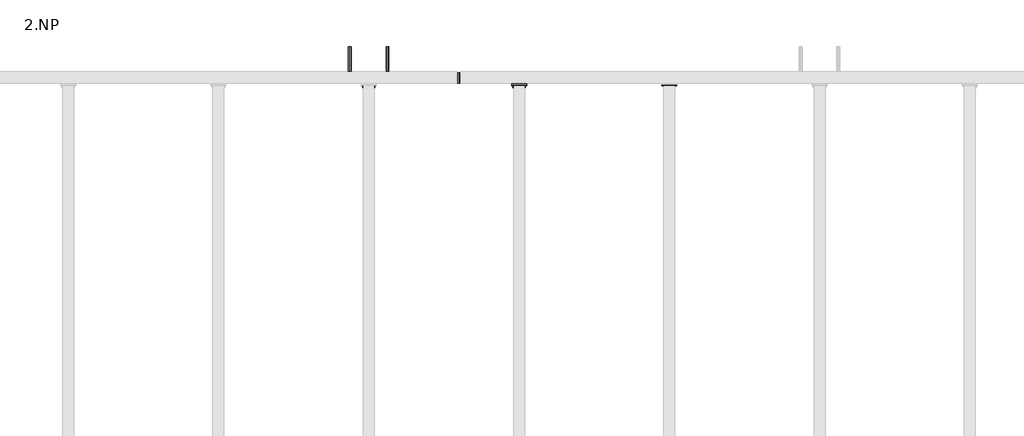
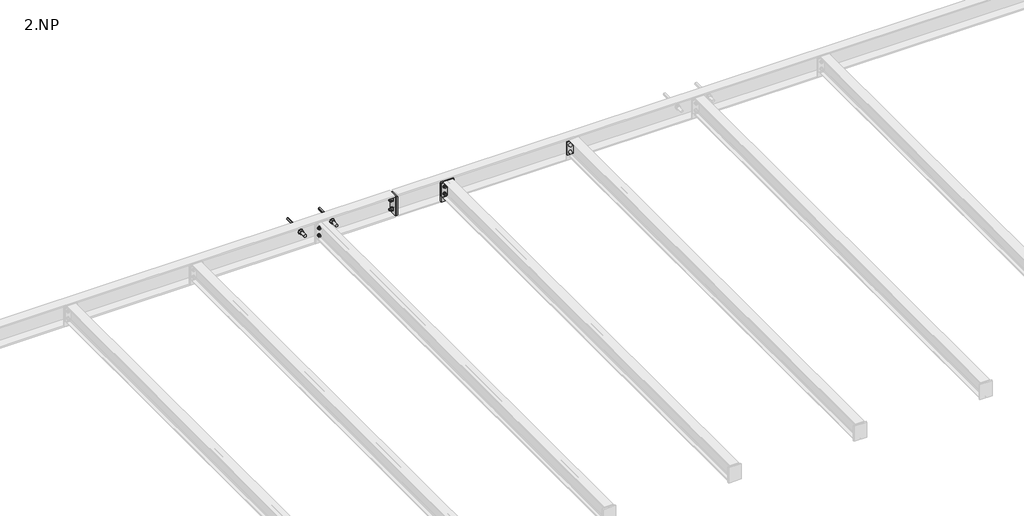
# One storey, part 11 of 18: 10 proxies.
"""IFC4 building model written with IfcOpenShell, lengths in millimetres."""

from ifc_helpers import new_model, si_unit, point, frame, frame_2d, origin, place, context, project, spatial, polyline, circle_curve, trimmed, segment, composite_curve, outline, extrude, element, save

model = new_model("IFC4")

# Units and contexts
model_context = context("Model", 3, world=origin())
ifc_project = project(units=[si_unit("LENGTHUNIT", "METRE", prefix="MILLI")], contexts=[model_context])

# Site, building, storey
site = spatial("IfcSite", under=ifc_project)
building = spatial("IfcBuilding", under=site)
storey = spatial("IfcBuildingStorey", under=building, Name="2.NP", Elevation=3000.0)

# Proxies
placement = place(None, origin())
element("IfcBuildingElementProxy", 1, Name="PLECH", ObjectType="PLECH", at=placement, inside=storey, context=model_context, shape_type="SweptSolid", body=[
    extrude(outline(polyline([(7000.0, 3775.0), (7100.0, 3775.0), (7100.0, 3767.0), (7000.0, 3767.0), (7000.0, 3775.0)])), frame((0.0, 0.0, 3175.0), z_axis=(0.0, 0.0, 1.0), x_axis=(1.0, 0.0, 0.0)), (0.0, 0.0, 1.0), 110.0),
])
element("IfcBuildingElementProxy", 2, Name="PLECH", ObjectType="PLECH", at=placement, inside=storey, context=model_context, shape_type="SweptSolid", body=[
    extrude(outline(polyline([(8000.0, 3775.0), (8100.0, 3775.0), (8100.0, 3767.0), (8000.0, 3767.0), (8000.0, 3775.0)])), frame((0.0, 0.0, 3175.0), z_axis=(0.0, 0.0, 1.0), x_axis=(1.0, 0.0, 0.0)), (0.0, 0.0, 1.0), 110.0),
])
element("IfcBuildingElementProxy", 3, Name="PLECH", ObjectType="PLECH", at=placement, inside=storey, context=model_context, shape_type="SweptSolid", body=[
    extrude(outline(polyline([(6650.0, 3855.0), (6650.0, 3785.0), (6640.0, 3785.0), (6640.0, 3855.0), (6650.0, 3855.0)])), frame((0.0, 0.0, 3130.5), z_axis=(0.0, 0.0, 1.0), x_axis=(1.0, 0.0, 0.0)), (0.0, 0.0, 1.0), 159.0),
])
element("IfcBuildingElementProxy", 4, Name="PLECH", ObjectType="PLECH", at=placement, inside=storey, context=model_context, shape_type="SweptSolid", body=[
    extrude(outline(polyline([(7000.0, 3785.0), (7100.0, 3785.0), (7100.0, 3775.0), (7000.0, 3775.0), (7000.0, 3785.0)])), frame((0.0, 0.0, 3128.0), z_axis=(0.0, 0.0, 1.0), x_axis=(1.0, 0.0, 0.0)), (0.0, 0.0, 1.0), 164.0),
])
element("IfcBuildingElementProxy", 5, Name="PLECH", ObjectType="PLECH", at=placement, inside=storey, context=model_context, shape_type="SweptSolid", body=[
    extrude(outline(composite_curve([segment(polyline([(3785.0, 3289.5), (3834.5, 3289.5)]), True, "CONTINUOUS"), segment(trimmed(circle_curve(frame_2d((3854.5, 3289.5)), 20.0), [point((3834.5, 3289.5))], [point((3854.5, 3269.5))], True, "CARTESIAN"), True, "CONTINUOUS"), segment(polyline([(3854.5, 3269.5), (3854.5, 3150.5)]), True, "CONTINUOUS"), segment(trimmed(circle_curve(frame_2d((3854.5, 3130.5)), 20.0), [point((3854.5, 3150.5))], [point((3834.5, 3130.5))], True, "CARTESIAN"), True, "CONTINUOUS"), segment(polyline([(3834.5, 3130.5), (3785.0, 3130.5), (3785.0, 3289.5)]), True, "CONTINUOUS")], self_intersect=False)), frame((7047.0, 0.0, 0.0), z_axis=(1.0, 0.0, 0.0), x_axis=(0.0, 1.0, 0.0)), (0.0, 0.0, 1.0), 6.0),
])
element("IfcBuildingElementProxy", 6, Name="PLECH", ObjectType="PLECH", at=placement, inside=storey, context=model_context, shape_type="SweptSolid", body=[
    extrude(outline(polyline([(6660.0, 3855.0), (6660.0, 3785.0), (6650.0, 3785.0), (6650.0, 3855.0), (6660.0, 3855.0)])), frame((0.0, 0.0, 3130.5), z_axis=(0.0, 0.0, 1.0), x_axis=(1.0, 0.0, 0.0)), (0.0, 0.0, 1.0), 159.0),
])
element("IfcBuildingElementProxy", 7, Name="Bolt assembly", ObjectType="Bolt assembly", at=placement, inside=storey, context=model_context, shape_type="SweptSolid", body=[
    extrude(outline(composite_curve([segment(trimmed(circle_curve(frame_2d((3260.0, 6020.0)), 6.5), [point((3260.0, 6026.5))], [point((3260.0, 6013.5))], False, "CARTESIAN"), True, "CONTINUOUS"), segment(trimmed(circle_curve(frame_2d((3260.0, 6020.0)), 6.5), [point((3260.0, 6013.5))], [point((3260.0, 6026.5))], False, "CARTESIAN"), True, "CONTINUOUS")], self_intersect=False)), frame((0.0, 3774.9, 0.0), z_axis=(0.0, 1.0, 0.0), x_axis=(0.0, 0.0, 1.0)), (0.0, 0.0, 1.0), 10.0),
    extrude(outline(polyline([(3260.0, 6030.9696551), (3269.5, 6025.4848276), (3269.5, 6014.5151724), (3260.0, 6009.0303449), (3250.5, 6014.5151724), (3250.5, 6025.4848276), (3260.0, 6030.9696551)])), frame((0.0, 3787.5, 0.0), z_axis=(0.0, 1.0, 0.0), x_axis=(0.0, 0.0, 1.0)), (0.0, 0.0, 1.0), 7.5),
    extrude(outline(composite_curve([segment(trimmed(circle_curve(frame_2d((3260.0, 6020.0)), 6.0), [point((3260.0, 6026.0))], [point((3260.0, 6014.0))], False, "CARTESIAN"), True, "CONTINUOUS"), segment(trimmed(circle_curve(frame_2d((3260.0, 6020.0)), 6.0), [point((3260.0, 6014.0))], [point((3260.0, 6026.0))], False, "CARTESIAN"), True, "CONTINUOUS")], self_intersect=False)), frame((0.0, 3747.5, 0.0), z_axis=(0.0, 1.0, 0.0), x_axis=(0.0, 0.0, 1.0)), (0.0, 0.0, 1.0), 40.0),
    extrude(outline(composite_curve([segment(trimmed(circle_curve(frame_2d((3260.0, 6020.0)), 12.0), [point((3260.0, 6032.0))], [point((3260.0, 6008.0))], False, "CARTESIAN"), True, "CONTINUOUS"), segment(trimmed(circle_curve(frame_2d((3260.0, 6020.0)), 12.0), [point((3260.0, 6008.0))], [point((3260.0, 6032.0))], False, "CARTESIAN"), True, "CONTINUOUS")], self_intersect=False)), frame((0.0, 3785.0, 0.0), z_axis=(0.0, 1.0, 0.0), x_axis=(0.0, 0.0, 1.0)), (0.0, 0.0, 1.0), 2.5),
    extrude(outline(composite_curve([segment(trimmed(circle_curve(frame_2d((3260.0, 6020.0)), 12.0), [point((3260.0, 6032.0))], [point((3260.0, 6008.0))], False, "CARTESIAN"), True, "CONTINUOUS"), segment(trimmed(circle_curve(frame_2d((3260.0, 6020.0)), 12.0), [point((3260.0, 6008.0))], [point((3260.0, 6032.0))], False, "CARTESIAN"), True, "CONTINUOUS")], self_intersect=False)), frame((0.0, 3764.5, 0.0), z_axis=(0.0, 1.0, 0.0), x_axis=(0.0, 0.0, 1.0)), (0.0, 0.0, 1.0), 2.5),
    extrude(outline(polyline([(3260.0, 6030.9696551), (3269.5, 6025.4848276), (3269.5, 6014.5151724), (3260.0, 6009.0303449), (3250.5, 6014.5151724), (3250.5, 6025.4848276), (3260.0, 6030.9696551)])), frame((0.0, 3754.5, 0.0), z_axis=(0.0, 1.0, 0.0), x_axis=(0.0, 0.0, 1.0)), (0.0, 0.0, 1.0), 10.0),
    extrude(outline(composite_curve([segment(trimmed(circle_curve(frame_2d((3260.0, 6020.0)), 6.5), [point((3260.0, 6026.5))], [point((3260.0, 6013.5))], False, "CARTESIAN"), True, "CONTINUOUS"), segment(trimmed(circle_curve(frame_2d((3260.0, 6020.0)), 6.5), [point((3260.0, 6013.5))], [point((3260.0, 6026.5))], False, "CARTESIAN"), True, "CONTINUOUS")], self_intersect=False)), frame((0.0, 3767.0, 0.0), z_axis=(0.0, 1.0, 0.0), x_axis=(0.0, 0.0, 1.0)), (0.0, 0.0, 1.0), 8.1),
    extrude(outline(composite_curve([segment(trimmed(circle_curve(frame_2d((3260.0, 6080.0)), 6.5), [point((3260.0, 6086.5))], [point((3260.0, 6073.5))], False, "CARTESIAN"), True, "CONTINUOUS"), segment(trimmed(circle_curve(frame_2d((3260.0, 6080.0)), 6.5), [point((3260.0, 6073.5))], [point((3260.0, 6086.5))], False, "CARTESIAN"), True, "CONTINUOUS")], self_intersect=False)), frame((0.0, 3774.9, 0.0), z_axis=(0.0, 1.0, 0.0), x_axis=(0.0, 0.0, 1.0)), (0.0, 0.0, 1.0), 10.0),
    extrude(outline(polyline([(3260.0, 6090.9696551), (3269.5, 6085.4848276), (3269.5, 6074.5151724), (3260.0, 6069.0303449), (3250.5, 6074.5151724), (3250.5, 6085.4848276), (3260.0, 6090.9696551)])), frame((0.0, 3787.5, 0.0), z_axis=(0.0, 1.0, 0.0), x_axis=(0.0, 0.0, 1.0)), (0.0, 0.0, 1.0), 7.5),
    extrude(outline(composite_curve([segment(trimmed(circle_curve(frame_2d((3260.0, 6080.0)), 6.0), [point((3260.0, 6086.0))], [point((3260.0, 6074.0))], False, "CARTESIAN"), True, "CONTINUOUS"), segment(trimmed(circle_curve(frame_2d((3260.0, 6080.0)), 6.0), [point((3260.0, 6074.0))], [point((3260.0, 6086.0))], False, "CARTESIAN"), True, "CONTINUOUS")], self_intersect=False)), frame((0.0, 3747.5, 0.0), z_axis=(0.0, 1.0, 0.0), x_axis=(0.0, 0.0, 1.0)), (0.0, 0.0, 1.0), 40.0),
    extrude(outline(composite_curve([segment(trimmed(circle_curve(frame_2d((3260.0, 6080.0)), 12.0), [point((3260.0, 6092.0))], [point((3260.0, 6068.0))], False, "CARTESIAN"), True, "CONTINUOUS"), segment(trimmed(circle_curve(frame_2d((3260.0, 6080.0)), 12.0), [point((3260.0, 6068.0))], [point((3260.0, 6092.0))], False, "CARTESIAN"), True, "CONTINUOUS")], self_intersect=False)), frame((0.0, 3785.0, 0.0), z_axis=(0.0, 1.0, 0.0), x_axis=(0.0, 0.0, 1.0)), (0.0, 0.0, 1.0), 2.5),
    extrude(outline(composite_curve([segment(trimmed(circle_curve(frame_2d((3260.0, 6080.0)), 12.0), [point((3260.0, 6092.0))], [point((3260.0, 6068.0))], False, "CARTESIAN"), True, "CONTINUOUS"), segment(trimmed(circle_curve(frame_2d((3260.0, 6080.0)), 12.0), [point((3260.0, 6068.0))], [point((3260.0, 6092.0))], False, "CARTESIAN"), True, "CONTINUOUS")], self_intersect=False)), frame((0.0, 3764.5, 0.0), z_axis=(0.0, 1.0, 0.0), x_axis=(0.0, 0.0, 1.0)), (0.0, 0.0, 1.0), 2.5),
    extrude(outline(polyline([(3260.0, 6090.9696551), (3269.5, 6085.4848276), (3269.5, 6074.5151724), (3260.0, 6069.0303449), (3250.5, 6074.5151724), (3250.5, 6085.4848276), (3260.0, 6090.9696551)])), frame((0.0, 3754.5, 0.0), z_axis=(0.0, 1.0, 0.0), x_axis=(0.0, 0.0, 1.0)), (0.0, 0.0, 1.0), 10.0),
    extrude(outline(composite_curve([segment(trimmed(circle_curve(frame_2d((3260.0, 6080.0)), 6.5), [point((3260.0, 6086.5))], [point((3260.0, 6073.5))], False, "CARTESIAN"), True, "CONTINUOUS"), segment(trimmed(circle_curve(frame_2d((3260.0, 6080.0)), 6.5), [point((3260.0, 6073.5))], [point((3260.0, 6086.5))], False, "CARTESIAN"), True, "CONTINUOUS")], self_intersect=False)), frame((0.0, 3767.0, 0.0), z_axis=(0.0, 1.0, 0.0), x_axis=(0.0, 0.0, 1.0)), (0.0, 0.0, 1.0), 8.1),
    extrude(outline(composite_curve([segment(trimmed(circle_curve(frame_2d((3200.0, 6020.0)), 6.5), [point((3200.0, 6026.5))], [point((3200.0, 6013.5))], False, "CARTESIAN"), True, "CONTINUOUS"), segment(trimmed(circle_curve(frame_2d((3200.0, 6020.0)), 6.5), [point((3200.0, 6013.5))], [point((3200.0, 6026.5))], False, "CARTESIAN"), True, "CONTINUOUS")], self_intersect=False)), frame((0.0, 3774.9, 0.0), z_axis=(0.0, 1.0, 0.0), x_axis=(0.0, 0.0, 1.0)), (0.0, 0.0, 1.0), 10.0),
    extrude(outline(polyline([(3200.0, 6030.9696551), (3209.5, 6025.4848276), (3209.5, 6014.5151724), (3200.0, 6009.0303449), (3190.5, 6014.5151724), (3190.5, 6025.4848276), (3200.0, 6030.9696551)])), frame((0.0, 3787.5, 0.0), z_axis=(0.0, 1.0, 0.0), x_axis=(0.0, 0.0, 1.0)), (0.0, 0.0, 1.0), 7.5),
    extrude(outline(composite_curve([segment(trimmed(circle_curve(frame_2d((3200.0, 6020.0)), 6.0), [point((3200.0, 6026.0))], [point((3200.0, 6014.0))], False, "CARTESIAN"), True, "CONTINUOUS"), segment(trimmed(circle_curve(frame_2d((3200.0, 6020.0)), 6.0), [point((3200.0, 6014.0))], [point((3200.0, 6026.0))], False, "CARTESIAN"), True, "CONTINUOUS")], self_intersect=False)), frame((0.0, 3747.5, 0.0), z_axis=(0.0, 1.0, 0.0), x_axis=(0.0, 0.0, 1.0)), (0.0, 0.0, 1.0), 40.0),
    extrude(outline(composite_curve([segment(trimmed(circle_curve(frame_2d((3200.0, 6020.0)), 12.0), [point((3200.0, 6032.0))], [point((3200.0, 6008.0))], False, "CARTESIAN"), True, "CONTINUOUS"), segment(trimmed(circle_curve(frame_2d((3200.0, 6020.0)), 12.0), [point((3200.0, 6008.0))], [point((3200.0, 6032.0))], False, "CARTESIAN"), True, "CONTINUOUS")], self_intersect=False)), frame((0.0, 3785.0, 0.0), z_axis=(0.0, 1.0, 0.0), x_axis=(0.0, 0.0, 1.0)), (0.0, 0.0, 1.0), 2.5),
    extrude(outline(composite_curve([segment(trimmed(circle_curve(frame_2d((3200.0, 6020.0)), 12.0), [point((3200.0, 6032.0))], [point((3200.0, 6008.0))], False, "CARTESIAN"), True, "CONTINUOUS"), segment(trimmed(circle_curve(frame_2d((3200.0, 6020.0)), 12.0), [point((3200.0, 6008.0))], [point((3200.0, 6032.0))], False, "CARTESIAN"), True, "CONTINUOUS")], self_intersect=False)), frame((0.0, 3764.5, 0.0), z_axis=(0.0, 1.0, 0.0), x_axis=(0.0, 0.0, 1.0)), (0.0, 0.0, 1.0), 2.5),
    extrude(outline(polyline([(3200.0, 6030.9696551), (3209.5, 6025.4848276), (3209.5, 6014.5151724), (3200.0, 6009.0303449), (3190.5, 6014.5151724), (3190.5, 6025.4848276), (3200.0, 6030.9696551)])), frame((0.0, 3754.5, 0.0), z_axis=(0.0, 1.0, 0.0), x_axis=(0.0, 0.0, 1.0)), (0.0, 0.0, 1.0), 10.0),
    extrude(outline(composite_curve([segment(trimmed(circle_curve(frame_2d((3200.0, 6020.0)), 6.5), [point((3200.0, 6026.5))], [point((3200.0, 6013.5))], False, "CARTESIAN"), True, "CONTINUOUS"), segment(trimmed(circle_curve(frame_2d((3200.0, 6020.0)), 6.5), [point((3200.0, 6013.5))], [point((3200.0, 6026.5))], False, "CARTESIAN"), True, "CONTINUOUS")], self_intersect=False)), frame((0.0, 3767.0, 0.0), z_axis=(0.0, 1.0, 0.0), x_axis=(0.0, 0.0, 1.0)), (0.0, 0.0, 1.0), 8.1),
    extrude(outline(composite_curve([segment(trimmed(circle_curve(frame_2d((3200.0, 6080.0)), 6.5), [point((3200.0, 6086.5))], [point((3200.0, 6073.5))], False, "CARTESIAN"), True, "CONTINUOUS"), segment(trimmed(circle_curve(frame_2d((3200.0, 6080.0)), 6.5), [point((3200.0, 6073.5))], [point((3200.0, 6086.5))], False, "CARTESIAN"), True, "CONTINUOUS")], self_intersect=False)), frame((0.0, 3774.9, 0.0), z_axis=(0.0, 1.0, 0.0), x_axis=(0.0, 0.0, 1.0)), (0.0, 0.0, 1.0), 10.0),
    extrude(outline(polyline([(3200.0, 6090.9696551), (3209.5, 6085.4848276), (3209.5, 6074.5151724), (3200.0, 6069.0303449), (3190.5, 6074.5151724), (3190.5, 6085.4848276), (3200.0, 6090.9696551)])), frame((0.0, 3787.5, 0.0), z_axis=(0.0, 1.0, 0.0), x_axis=(0.0, 0.0, 1.0)), (0.0, 0.0, 1.0), 7.5),
    extrude(outline(composite_curve([segment(trimmed(circle_curve(frame_2d((3200.0, 6080.0)), 6.0), [point((3200.0, 6086.0))], [point((3200.0, 6074.0))], False, "CARTESIAN"), True, "CONTINUOUS"), segment(trimmed(circle_curve(frame_2d((3200.0, 6080.0)), 6.0), [point((3200.0, 6074.0))], [point((3200.0, 6086.0))], False, "CARTESIAN"), True, "CONTINUOUS")], self_intersect=False)), frame((0.0, 3747.5, 0.0), z_axis=(0.0, 1.0, 0.0), x_axis=(0.0, 0.0, 1.0)), (0.0, 0.0, 1.0), 40.0),
    extrude(outline(composite_curve([segment(trimmed(circle_curve(frame_2d((3200.0, 6080.0)), 12.0), [point((3200.0, 6092.0))], [point((3200.0, 6068.0))], False, "CARTESIAN"), True, "CONTINUOUS"), segment(trimmed(circle_curve(frame_2d((3200.0, 6080.0)), 12.0), [point((3200.0, 6068.0))], [point((3200.0, 6092.0))], False, "CARTESIAN"), True, "CONTINUOUS")], self_intersect=False)), frame((0.0, 3785.0, 0.0), z_axis=(0.0, 1.0, 0.0), x_axis=(0.0, 0.0, 1.0)), (0.0, 0.0, 1.0), 2.5),
    extrude(outline(composite_curve([segment(trimmed(circle_curve(frame_2d((3200.0, 6080.0)), 12.0), [point((3200.0, 6092.0))], [point((3200.0, 6068.0))], False, "CARTESIAN"), True, "CONTINUOUS"), segment(trimmed(circle_curve(frame_2d((3200.0, 6080.0)), 12.0), [point((3200.0, 6068.0))], [point((3200.0, 6092.0))], False, "CARTESIAN"), True, "CONTINUOUS")], self_intersect=False)), frame((0.0, 3764.5, 0.0), z_axis=(0.0, 1.0, 0.0), x_axis=(0.0, 0.0, 1.0)), (0.0, 0.0, 1.0), 2.5),
    extrude(outline(polyline([(3200.0, 6090.9696551), (3209.5, 6085.4848276), (3209.5, 6074.5151724), (3200.0, 6069.0303449), (3190.5, 6074.5151724), (3190.5, 6085.4848276), (3200.0, 6090.9696551)])), frame((0.0, 3754.5, 0.0), z_axis=(0.0, 1.0, 0.0), x_axis=(0.0, 0.0, 1.0)), (0.0, 0.0, 1.0), 10.0),
    extrude(outline(composite_curve([segment(trimmed(circle_curve(frame_2d((3200.0, 6080.0)), 6.5), [point((3200.0, 6086.5))], [point((3200.0, 6073.5))], False, "CARTESIAN"), True, "CONTINUOUS"), segment(trimmed(circle_curve(frame_2d((3200.0, 6080.0)), 6.5), [point((3200.0, 6073.5))], [point((3200.0, 6086.5))], False, "CARTESIAN"), True, "CONTINUOUS")], self_intersect=False)), frame((0.0, 3767.0, 0.0), z_axis=(0.0, 1.0, 0.0), x_axis=(0.0, 0.0, 1.0)), (0.0, 0.0, 1.0), 8.1),
])
element("IfcBuildingElementProxy", 8, Name="Bolt assembly", ObjectType="Bolt assembly", at=placement, inside=storey, context=model_context, shape_type="SweptSolid", body=[
    extrude(outline(polyline([(3210.0, 5934.8149546), (3218.5, 5929.9074773), (3218.5, 5920.0925227), (3210.0, 5915.1850454), (3201.5, 5920.0925227), (3201.5, 5929.9074773), (3210.0, 5934.8149546)])), frame((0.0, 3860.0, 0.0), z_axis=(0.0, 1.0, 0.0), x_axis=(0.0, 0.0, 1.0)), (0.0, 0.0, 1.0), 168.0),
    extrude(outline(composite_curve([segment(trimmed(circle_curve(frame_2d((3210.0, 5925.0)), 10.0), [point((3210.0, 5935.0))], [point((3210.0, 5915.0))], False, "CARTESIAN"), True, "CONTINUOUS"), segment(trimmed(circle_curve(frame_2d((3210.0, 5925.0)), 10.0), [point((3210.0, 5915.0))], [point((3210.0, 5935.0))], False, "CARTESIAN"), True, "CONTINUOUS")], self_intersect=False)), frame((0.0, 3788.0, 0.0), z_axis=(0.0, 1.0, 0.0), x_axis=(0.0, 0.0, 1.0)), (0.0, 0.0, 1.0), 72.0),
    extrude(outline(composite_curve([segment(trimmed(circle_curve(frame_2d((3210.0, 5925.0)), 18.5), [point((3210.0, 5943.5))], [point((3210.0, 5906.5))], False, "CARTESIAN"), True, "CONTINUOUS"), segment(trimmed(circle_curve(frame_2d((3210.0, 5925.0)), 18.5), [point((3210.0, 5906.5))], [point((3210.0, 5943.5))], False, "CARTESIAN"), True, "CONTINUOUS")], self_intersect=False)), frame((0.0, 3851.5, 0.0), z_axis=(0.0, 1.0, 0.0), x_axis=(0.0, 0.0, 1.0)), (0.0, 0.0, 1.0), 3.0),
    extrude(outline(polyline([(3210.0, 5942.3205081), (3225.0, 5933.660254), (3225.0, 5916.339746), (3210.0, 5907.6794919), (3195.0, 5916.339746), (3195.0, 5933.660254), (3210.0, 5942.3205081)])), frame((0.0, 3835.5, 0.0), z_axis=(0.0, 1.0, 0.0), x_axis=(0.0, 0.0, 1.0)), (0.0, 0.0, 1.0), 16.0),
    extrude(outline(composite_curve([segment(trimmed(circle_curve(frame_2d((3210.0, 5925.0)), 11.0), [point((3210.0, 5936.0))], [point((3210.0, 5914.0))], False, "CARTESIAN"), True, "CONTINUOUS"), segment(trimmed(circle_curve(frame_2d((3210.0, 5925.0)), 11.0), [point((3210.0, 5914.0))], [point((3210.0, 5936.0))], False, "CARTESIAN"), True, "CONTINUOUS")], self_intersect=False)), frame((0.0, 3854.4, 0.0), z_axis=(0.0, 1.0, 0.0), x_axis=(0.0, 0.0, 1.0)), (0.0, 0.0, 1.0), 5.6),
    extrude(outline(polyline([(3210.0, 6184.8149546), (3218.5, 6179.9074773), (3218.5, 6170.0925227), (3210.0, 6165.1850454), (3201.5, 6170.0925227), (3201.5, 6179.9074773), (3210.0, 6184.8149546)])), frame((0.0, 3860.0, 0.0), z_axis=(0.0, 1.0, 0.0), x_axis=(0.0, 0.0, 1.0)), (0.0, 0.0, 1.0), 168.0),
    extrude(outline(composite_curve([segment(trimmed(circle_curve(frame_2d((3210.0, 6175.0)), 10.0), [point((3210.0, 6185.0))], [point((3210.0, 6165.0))], False, "CARTESIAN"), True, "CONTINUOUS"), segment(trimmed(circle_curve(frame_2d((3210.0, 6175.0)), 10.0), [point((3210.0, 6165.0))], [point((3210.0, 6185.0))], False, "CARTESIAN"), True, "CONTINUOUS")], self_intersect=False)), frame((0.0, 3788.0, 0.0), z_axis=(0.0, 1.0, 0.0), x_axis=(0.0, 0.0, 1.0)), (0.0, 0.0, 1.0), 72.0),
    extrude(outline(composite_curve([segment(trimmed(circle_curve(frame_2d((3210.0, 6175.0)), 18.5), [point((3210.0, 6193.5))], [point((3210.0, 6156.5))], False, "CARTESIAN"), True, "CONTINUOUS"), segment(trimmed(circle_curve(frame_2d((3210.0, 6175.0)), 18.5), [point((3210.0, 6156.5))], [point((3210.0, 6193.5))], False, "CARTESIAN"), True, "CONTINUOUS")], self_intersect=False)), frame((0.0, 3851.5, 0.0), z_axis=(0.0, 1.0, 0.0), x_axis=(0.0, 0.0, 1.0)), (0.0, 0.0, 1.0), 3.0),
    extrude(outline(polyline([(3210.0, 6192.3205081), (3225.0, 6183.660254), (3225.0, 6166.339746), (3210.0, 6157.6794919), (3195.0, 6166.339746), (3195.0, 6183.660254), (3210.0, 6192.3205081)])), frame((0.0, 3835.5, 0.0), z_axis=(0.0, 1.0, 0.0), x_axis=(0.0, 0.0, 1.0)), (0.0, 0.0, 1.0), 16.0),
    extrude(outline(composite_curve([segment(trimmed(circle_curve(frame_2d((3210.0, 6175.0)), 11.0), [point((3210.0, 6186.0))], [point((3210.0, 6164.0))], False, "CARTESIAN"), True, "CONTINUOUS"), segment(trimmed(circle_curve(frame_2d((3210.0, 6175.0)), 11.0), [point((3210.0, 6164.0))], [point((3210.0, 6186.0))], False, "CARTESIAN"), True, "CONTINUOUS")], self_intersect=False)), frame((0.0, 3854.4, 0.0), z_axis=(0.0, 1.0, 0.0), x_axis=(0.0, 0.0, 1.0)), (0.0, 0.0, 1.0), 5.6),
])
element("IfcBuildingElementProxy", 9, Name="Bolt assembly", ObjectType="Bolt assembly", at=placement, inside=storey, context=model_context, shape_type="SweptSolid", body=[
    extrude(outline(composite_curve([segment(trimmed(circle_curve(frame_2d((3260.0, 7020.0)), 6.5), [point((3260.0, 7026.5))], [point((3260.0, 7013.5))], False, "CARTESIAN"), True, "CONTINUOUS"), segment(trimmed(circle_curve(frame_2d((3260.0, 7020.0)), 6.5), [point((3260.0, 7013.5))], [point((3260.0, 7026.5))], False, "CARTESIAN"), True, "CONTINUOUS")], self_intersect=False)), frame((0.0, 3774.9, 0.0), z_axis=(0.0, 1.0, 0.0), x_axis=(0.0, 0.0, 1.0)), (0.0, 0.0, 1.0), 10.0),
    extrude(outline(polyline([(3260.0, 7030.9696551), (3269.5, 7025.4848276), (3269.5, 7014.5151724), (3260.0, 7009.0303449), (3250.5, 7014.5151724), (3250.5, 7025.4848276), (3260.0, 7030.9696551)])), frame((0.0, 3787.5, 0.0), z_axis=(0.0, 1.0, 0.0), x_axis=(0.0, 0.0, 1.0)), (0.0, 0.0, 1.0), 7.5),
    extrude(outline(composite_curve([segment(trimmed(circle_curve(frame_2d((3260.0, 7020.0)), 6.0), [point((3260.0, 7026.0))], [point((3260.0, 7014.0))], False, "CARTESIAN"), True, "CONTINUOUS"), segment(trimmed(circle_curve(frame_2d((3260.0, 7020.0)), 6.0), [point((3260.0, 7014.0))], [point((3260.0, 7026.0))], False, "CARTESIAN"), True, "CONTINUOUS")], self_intersect=False)), frame((0.0, 3747.5, 0.0), z_axis=(0.0, 1.0, 0.0), x_axis=(0.0, 0.0, 1.0)), (0.0, 0.0, 1.0), 40.0),
    extrude(outline(composite_curve([segment(trimmed(circle_curve(frame_2d((3260.0, 7020.0)), 12.0), [point((3260.0, 7032.0))], [point((3260.0, 7008.0))], False, "CARTESIAN"), True, "CONTINUOUS"), segment(trimmed(circle_curve(frame_2d((3260.0, 7020.0)), 12.0), [point((3260.0, 7008.0))], [point((3260.0, 7032.0))], False, "CARTESIAN"), True, "CONTINUOUS")], self_intersect=False)), frame((0.0, 3785.0, 0.0), z_axis=(0.0, 1.0, 0.0), x_axis=(0.0, 0.0, 1.0)), (0.0, 0.0, 1.0), 2.5),
    extrude(outline(composite_curve([segment(trimmed(circle_curve(frame_2d((3260.0, 7020.0)), 12.0), [point((3260.0, 7032.0))], [point((3260.0, 7008.0))], False, "CARTESIAN"), True, "CONTINUOUS"), segment(trimmed(circle_curve(frame_2d((3260.0, 7020.0)), 12.0), [point((3260.0, 7008.0))], [point((3260.0, 7032.0))], False, "CARTESIAN"), True, "CONTINUOUS")], self_intersect=False)), frame((0.0, 3764.5, 0.0), z_axis=(0.0, 1.0, 0.0), x_axis=(0.0, 0.0, 1.0)), (0.0, 0.0, 1.0), 2.5),
    extrude(outline(polyline([(3260.0, 7030.9696551), (3269.5, 7025.4848276), (3269.5, 7014.5151724), (3260.0, 7009.0303449), (3250.5, 7014.5151724), (3250.5, 7025.4848276), (3260.0, 7030.9696551)])), frame((0.0, 3754.5, 0.0), z_axis=(0.0, 1.0, 0.0), x_axis=(0.0, 0.0, 1.0)), (0.0, 0.0, 1.0), 10.0),
    extrude(outline(composite_curve([segment(trimmed(circle_curve(frame_2d((3260.0, 7020.0)), 6.5), [point((3260.0, 7026.5))], [point((3260.0, 7013.5))], False, "CARTESIAN"), True, "CONTINUOUS"), segment(trimmed(circle_curve(frame_2d((3260.0, 7020.0)), 6.5), [point((3260.0, 7013.5))], [point((3260.0, 7026.5))], False, "CARTESIAN"), True, "CONTINUOUS")], self_intersect=False)), frame((0.0, 3767.0, 0.0), z_axis=(0.0, 1.0, 0.0), x_axis=(0.0, 0.0, 1.0)), (0.0, 0.0, 1.0), 8.1),
    extrude(outline(composite_curve([segment(trimmed(circle_curve(frame_2d((3260.0, 7080.0)), 6.5), [point((3260.0, 7086.5))], [point((3260.0, 7073.5))], False, "CARTESIAN"), True, "CONTINUOUS"), segment(trimmed(circle_curve(frame_2d((3260.0, 7080.0)), 6.5), [point((3260.0, 7073.5))], [point((3260.0, 7086.5))], False, "CARTESIAN"), True, "CONTINUOUS")], self_intersect=False)), frame((0.0, 3774.9, 0.0), z_axis=(0.0, 1.0, 0.0), x_axis=(0.0, 0.0, 1.0)), (0.0, 0.0, 1.0), 10.0),
    extrude(outline(polyline([(3260.0, 7090.9696551), (3269.5, 7085.4848276), (3269.5, 7074.5151724), (3260.0, 7069.0303449), (3250.5, 7074.5151724), (3250.5, 7085.4848276), (3260.0, 7090.9696551)])), frame((0.0, 3787.5, 0.0), z_axis=(0.0, 1.0, 0.0), x_axis=(0.0, 0.0, 1.0)), (0.0, 0.0, 1.0), 7.5),
    extrude(outline(composite_curve([segment(trimmed(circle_curve(frame_2d((3260.0, 7080.0)), 6.0), [point((3260.0, 7086.0))], [point((3260.0, 7074.0))], False, "CARTESIAN"), True, "CONTINUOUS"), segment(trimmed(circle_curve(frame_2d((3260.0, 7080.0)), 6.0), [point((3260.0, 7074.0))], [point((3260.0, 7086.0))], False, "CARTESIAN"), True, "CONTINUOUS")], self_intersect=False)), frame((0.0, 3747.5, 0.0), z_axis=(0.0, 1.0, 0.0), x_axis=(0.0, 0.0, 1.0)), (0.0, 0.0, 1.0), 40.0),
    extrude(outline(composite_curve([segment(trimmed(circle_curve(frame_2d((3260.0, 7080.0)), 12.0), [point((3260.0, 7092.0))], [point((3260.0, 7068.0))], False, "CARTESIAN"), True, "CONTINUOUS"), segment(trimmed(circle_curve(frame_2d((3260.0, 7080.0)), 12.0), [point((3260.0, 7068.0))], [point((3260.0, 7092.0))], False, "CARTESIAN"), True, "CONTINUOUS")], self_intersect=False)), frame((0.0, 3785.0, 0.0), z_axis=(0.0, 1.0, 0.0), x_axis=(0.0, 0.0, 1.0)), (0.0, 0.0, 1.0), 2.5),
    extrude(outline(composite_curve([segment(trimmed(circle_curve(frame_2d((3260.0, 7080.0)), 12.0), [point((3260.0, 7092.0))], [point((3260.0, 7068.0))], False, "CARTESIAN"), True, "CONTINUOUS"), segment(trimmed(circle_curve(frame_2d((3260.0, 7080.0)), 12.0), [point((3260.0, 7068.0))], [point((3260.0, 7092.0))], False, "CARTESIAN"), True, "CONTINUOUS")], self_intersect=False)), frame((0.0, 3764.5, 0.0), z_axis=(0.0, 1.0, 0.0), x_axis=(0.0, 0.0, 1.0)), (0.0, 0.0, 1.0), 2.5),
    extrude(outline(polyline([(3260.0, 7090.9696551), (3269.5, 7085.4848276), (3269.5, 7074.5151724), (3260.0, 7069.0303449), (3250.5, 7074.5151724), (3250.5, 7085.4848276), (3260.0, 7090.9696551)])), frame((0.0, 3754.5, 0.0), z_axis=(0.0, 1.0, 0.0), x_axis=(0.0, 0.0, 1.0)), (0.0, 0.0, 1.0), 10.0),
    extrude(outline(composite_curve([segment(trimmed(circle_curve(frame_2d((3260.0, 7080.0)), 6.5), [point((3260.0, 7086.5))], [point((3260.0, 7073.5))], False, "CARTESIAN"), True, "CONTINUOUS"), segment(trimmed(circle_curve(frame_2d((3260.0, 7080.0)), 6.5), [point((3260.0, 7073.5))], [point((3260.0, 7086.5))], False, "CARTESIAN"), True, "CONTINUOUS")], self_intersect=False)), frame((0.0, 3767.0, 0.0), z_axis=(0.0, 1.0, 0.0), x_axis=(0.0, 0.0, 1.0)), (0.0, 0.0, 1.0), 8.1),
    extrude(outline(composite_curve([segment(trimmed(circle_curve(frame_2d((3200.0, 7020.0)), 6.5), [point((3200.0, 7026.5))], [point((3200.0, 7013.5))], False, "CARTESIAN"), True, "CONTINUOUS"), segment(trimmed(circle_curve(frame_2d((3200.0, 7020.0)), 6.5), [point((3200.0, 7013.5))], [point((3200.0, 7026.5))], False, "CARTESIAN"), True, "CONTINUOUS")], self_intersect=False)), frame((0.0, 3774.9, 0.0), z_axis=(0.0, 1.0, 0.0), x_axis=(0.0, 0.0, 1.0)), (0.0, 0.0, 1.0), 10.0),
    extrude(outline(polyline([(3200.0, 7030.9696551), (3209.5, 7025.4848276), (3209.5, 7014.5151724), (3200.0, 7009.0303449), (3190.5, 7014.5151724), (3190.5, 7025.4848276), (3200.0, 7030.9696551)])), frame((0.0, 3787.5, 0.0), z_axis=(0.0, 1.0, 0.0), x_axis=(0.0, 0.0, 1.0)), (0.0, 0.0, 1.0), 7.5),
    extrude(outline(composite_curve([segment(trimmed(circle_curve(frame_2d((3200.0, 7020.0)), 6.0), [point((3200.0, 7026.0))], [point((3200.0, 7014.0))], False, "CARTESIAN"), True, "CONTINUOUS"), segment(trimmed(circle_curve(frame_2d((3200.0, 7020.0)), 6.0), [point((3200.0, 7014.0))], [point((3200.0, 7026.0))], False, "CARTESIAN"), True, "CONTINUOUS")], self_intersect=False)), frame((0.0, 3747.5, 0.0), z_axis=(0.0, 1.0, 0.0), x_axis=(0.0, 0.0, 1.0)), (0.0, 0.0, 1.0), 40.0),
    extrude(outline(composite_curve([segment(trimmed(circle_curve(frame_2d((3200.0, 7020.0)), 12.0), [point((3200.0, 7032.0))], [point((3200.0, 7008.0))], False, "CARTESIAN"), True, "CONTINUOUS"), segment(trimmed(circle_curve(frame_2d((3200.0, 7020.0)), 12.0), [point((3200.0, 7008.0))], [point((3200.0, 7032.0))], False, "CARTESIAN"), True, "CONTINUOUS")], self_intersect=False)), frame((0.0, 3785.0, 0.0), z_axis=(0.0, 1.0, 0.0), x_axis=(0.0, 0.0, 1.0)), (0.0, 0.0, 1.0), 2.5),
    extrude(outline(composite_curve([segment(trimmed(circle_curve(frame_2d((3200.0, 7020.0)), 12.0), [point((3200.0, 7032.0))], [point((3200.0, 7008.0))], False, "CARTESIAN"), True, "CONTINUOUS"), segment(trimmed(circle_curve(frame_2d((3200.0, 7020.0)), 12.0), [point((3200.0, 7008.0))], [point((3200.0, 7032.0))], False, "CARTESIAN"), True, "CONTINUOUS")], self_intersect=False)), frame((0.0, 3764.5, 0.0), z_axis=(0.0, 1.0, 0.0), x_axis=(0.0, 0.0, 1.0)), (0.0, 0.0, 1.0), 2.5),
    extrude(outline(polyline([(3200.0, 7030.9696551), (3209.5, 7025.4848276), (3209.5, 7014.5151724), (3200.0, 7009.0303449), (3190.5, 7014.5151724), (3190.5, 7025.4848276), (3200.0, 7030.9696551)])), frame((0.0, 3754.5, 0.0), z_axis=(0.0, 1.0, 0.0), x_axis=(0.0, 0.0, 1.0)), (0.0, 0.0, 1.0), 10.0),
    extrude(outline(composite_curve([segment(trimmed(circle_curve(frame_2d((3200.0, 7020.0)), 6.5), [point((3200.0, 7026.5))], [point((3200.0, 7013.5))], False, "CARTESIAN"), True, "CONTINUOUS"), segment(trimmed(circle_curve(frame_2d((3200.0, 7020.0)), 6.5), [point((3200.0, 7013.5))], [point((3200.0, 7026.5))], False, "CARTESIAN"), True, "CONTINUOUS")], self_intersect=False)), frame((0.0, 3767.0, 0.0), z_axis=(0.0, 1.0, 0.0), x_axis=(0.0, 0.0, 1.0)), (0.0, 0.0, 1.0), 8.1),
    extrude(outline(composite_curve([segment(trimmed(circle_curve(frame_2d((3200.0, 7080.0)), 6.5), [point((3200.0, 7086.5))], [point((3200.0, 7073.5))], False, "CARTESIAN"), True, "CONTINUOUS"), segment(trimmed(circle_curve(frame_2d((3200.0, 7080.0)), 6.5), [point((3200.0, 7073.5))], [point((3200.0, 7086.5))], False, "CARTESIAN"), True, "CONTINUOUS")], self_intersect=False)), frame((0.0, 3774.9, 0.0), z_axis=(0.0, 1.0, 0.0), x_axis=(0.0, 0.0, 1.0)), (0.0, 0.0, 1.0), 10.0),
    extrude(outline(polyline([(3200.0, 7090.9696551), (3209.5, 7085.4848276), (3209.5, 7074.5151724), (3200.0, 7069.0303449), (3190.5, 7074.5151724), (3190.5, 7085.4848276), (3200.0, 7090.9696551)])), frame((0.0, 3787.5, 0.0), z_axis=(0.0, 1.0, 0.0), x_axis=(0.0, 0.0, 1.0)), (0.0, 0.0, 1.0), 7.5),
    extrude(outline(composite_curve([segment(trimmed(circle_curve(frame_2d((3200.0, 7080.0)), 6.0), [point((3200.0, 7086.0))], [point((3200.0, 7074.0))], False, "CARTESIAN"), True, "CONTINUOUS"), segment(trimmed(circle_curve(frame_2d((3200.0, 7080.0)), 6.0), [point((3200.0, 7074.0))], [point((3200.0, 7086.0))], False, "CARTESIAN"), True, "CONTINUOUS")], self_intersect=False)), frame((0.0, 3747.5, 0.0), z_axis=(0.0, 1.0, 0.0), x_axis=(0.0, 0.0, 1.0)), (0.0, 0.0, 1.0), 40.0),
    extrude(outline(composite_curve([segment(trimmed(circle_curve(frame_2d((3200.0, 7080.0)), 12.0), [point((3200.0, 7092.0))], [point((3200.0, 7068.0))], False, "CARTESIAN"), True, "CONTINUOUS"), segment(trimmed(circle_curve(frame_2d((3200.0, 7080.0)), 12.0), [point((3200.0, 7068.0))], [point((3200.0, 7092.0))], False, "CARTESIAN"), True, "CONTINUOUS")], self_intersect=False)), frame((0.0, 3785.0, 0.0), z_axis=(0.0, 1.0, 0.0), x_axis=(0.0, 0.0, 1.0)), (0.0, 0.0, 1.0), 2.5),
    extrude(outline(composite_curve([segment(trimmed(circle_curve(frame_2d((3200.0, 7080.0)), 12.0), [point((3200.0, 7092.0))], [point((3200.0, 7068.0))], False, "CARTESIAN"), True, "CONTINUOUS"), segment(trimmed(circle_curve(frame_2d((3200.0, 7080.0)), 12.0), [point((3200.0, 7068.0))], [point((3200.0, 7092.0))], False, "CARTESIAN"), True, "CONTINUOUS")], self_intersect=False)), frame((0.0, 3764.5, 0.0), z_axis=(0.0, 1.0, 0.0), x_axis=(0.0, 0.0, 1.0)), (0.0, 0.0, 1.0), 2.5),
    extrude(outline(polyline([(3200.0, 7090.9696551), (3209.5, 7085.4848276), (3209.5, 7074.5151724), (3200.0, 7069.0303449), (3190.5, 7074.5151724), (3190.5, 7085.4848276), (3200.0, 7090.9696551)])), frame((0.0, 3754.5, 0.0), z_axis=(0.0, 1.0, 0.0), x_axis=(0.0, 0.0, 1.0)), (0.0, 0.0, 1.0), 10.0),
    extrude(outline(composite_curve([segment(trimmed(circle_curve(frame_2d((3200.0, 7080.0)), 6.5), [point((3200.0, 7086.5))], [point((3200.0, 7073.5))], False, "CARTESIAN"), True, "CONTINUOUS"), segment(trimmed(circle_curve(frame_2d((3200.0, 7080.0)), 6.5), [point((3200.0, 7073.5))], [point((3200.0, 7086.5))], False, "CARTESIAN"), True, "CONTINUOUS")], self_intersect=False)), frame((0.0, 3767.0, 0.0), z_axis=(0.0, 1.0, 0.0), x_axis=(0.0, 0.0, 1.0)), (0.0, 0.0, 1.0), 8.1),
])
element("IfcBuildingElementProxy", 10, Name="Bolt assembly", ObjectType="Bolt assembly", at=placement, inside=storey, context=model_context, shape_type="SweptSolid", body=[
    extrude(outline(composite_curve([segment(trimmed(circle_curve(frame_2d((3820.5, 3170.0)), 9.0), [point((3829.5, 3170.0))], [point((3811.5, 3170.0))], False, "CARTESIAN"), True, "CONTINUOUS"), segment(trimmed(circle_curve(frame_2d((3820.5, 3170.0)), 9.0), [point((3811.5, 3170.0))], [point((3829.5, 3170.0))], False, "CARTESIAN"), True, "CONTINUOUS")], self_intersect=False)), frame((6649.9, 0.0, 0.0), z_axis=(1.0, 0.0, 0.0), x_axis=(0.0, 1.0, 0.0)), (0.0, 0.0, 1.0), 10.0),
    extrude(outline(polyline([(3834.3564065, 3170.0), (3827.4282032, 3158.0), (3813.5717968, 3158.0), (3806.6435935, 3170.0), (3813.5717968, 3182.0), (3827.4282032, 3182.0), (3834.3564065, 3170.0)])), frame((6663.0, 0.0, 0.0), z_axis=(1.0, 0.0, 0.0), x_axis=(0.0, 1.0, 0.0)), (0.0, 0.0, 1.0), 10.0),
    extrude(outline(composite_curve([segment(trimmed(circle_curve(frame_2d((3820.5, 3170.0)), 8.0), [point((3828.5, 3170.0))], [point((3812.5, 3170.0))], False, "CARTESIAN"), True, "CONTINUOUS"), segment(trimmed(circle_curve(frame_2d((3820.5, 3170.0)), 8.0), [point((3812.5, 3170.0))], [point((3828.5, 3170.0))], False, "CARTESIAN"), True, "CONTINUOUS")], self_intersect=False)), frame((6613.0, 0.0, 0.0), z_axis=(1.0, 0.0, 0.0), x_axis=(0.0, 1.0, 0.0)), (0.0, 0.0, 1.0), 50.0),
    extrude(outline(composite_curve([segment(trimmed(circle_curve(frame_2d((3820.5, 3170.0)), 15.0), [point((3835.5, 3170.0))], [point((3805.5, 3170.0))], False, "CARTESIAN"), True, "CONTINUOUS"), segment(trimmed(circle_curve(frame_2d((3820.5, 3170.0)), 15.0), [point((3805.5, 3170.0))], [point((3835.5, 3170.0))], False, "CARTESIAN"), True, "CONTINUOUS")], self_intersect=False)), frame((6660.0, 0.0, 0.0), z_axis=(1.0, 0.0, 0.0), x_axis=(0.0, 1.0, 0.0)), (0.0, 0.0, 1.0), 3.0),
    extrude(outline(composite_curve([segment(trimmed(circle_curve(frame_2d((3820.5, 3170.0)), 15.0), [point((3835.5, 3170.0))], [point((3805.5, 3170.0))], False, "CARTESIAN"), True, "CONTINUOUS"), segment(trimmed(circle_curve(frame_2d((3820.5, 3170.0)), 15.0), [point((3805.5, 3170.0))], [point((3835.5, 3170.0))], False, "CARTESIAN"), True, "CONTINUOUS")], self_intersect=False)), frame((6637.0, 0.0, 0.0), z_axis=(1.0, 0.0, 0.0), x_axis=(0.0, 1.0, 0.0)), (0.0, 0.0, 1.0), 3.0),
    extrude(outline(polyline([(3835.9441197, 3170.0), (3828.2220599, 3156.625), (3812.7779401, 3156.625), (3805.0558803, 3170.0), (3812.7779401, 3183.375), (3828.2220599, 3183.375), (3835.9441197, 3170.0)])), frame((6624.0, 0.0, 0.0), z_axis=(1.0, 0.0, 0.0), x_axis=(0.0, 1.0, 0.0)), (0.0, 0.0, 1.0), 13.0),
    extrude(outline(composite_curve([segment(trimmed(circle_curve(frame_2d((3820.5, 3170.0)), 9.0), [point((3829.5, 3170.0))], [point((3811.5, 3170.0))], False, "CARTESIAN"), True, "CONTINUOUS"), segment(trimmed(circle_curve(frame_2d((3820.5, 3170.0)), 9.0), [point((3811.5, 3170.0))], [point((3829.5, 3170.0))], False, "CARTESIAN"), True, "CONTINUOUS")], self_intersect=False)), frame((6640.0, 0.0, 0.0), z_axis=(1.0, 0.0, 0.0), x_axis=(0.0, 1.0, 0.0)), (0.0, 0.0, 1.0), 10.1),
    extrude(outline(composite_curve([segment(trimmed(circle_curve(frame_2d((3820.5, 3250.0)), 9.0), [point((3829.5, 3250.0))], [point((3811.5, 3250.0))], False, "CARTESIAN"), True, "CONTINUOUS"), segment(trimmed(circle_curve(frame_2d((3820.5, 3250.0)), 9.0), [point((3811.5, 3250.0))], [point((3829.5, 3250.0))], False, "CARTESIAN"), True, "CONTINUOUS")], self_intersect=False)), frame((6649.9, 0.0, 0.0), z_axis=(1.0, 0.0, 0.0), x_axis=(0.0, 1.0, 0.0)), (0.0, 0.0, 1.0), 10.0),
    extrude(outline(polyline([(3834.3564065, 3250.0), (3827.4282032, 3238.0), (3813.5717968, 3238.0), (3806.6435935, 3250.0), (3813.5717968, 3262.0), (3827.4282032, 3262.0), (3834.3564065, 3250.0)])), frame((6663.0, 0.0, 0.0), z_axis=(1.0, 0.0, 0.0), x_axis=(0.0, 1.0, 0.0)), (0.0, 0.0, 1.0), 10.0),
    extrude(outline(composite_curve([segment(trimmed(circle_curve(frame_2d((3820.5, 3250.0)), 8.0), [point((3828.5, 3250.0))], [point((3812.5, 3250.0))], False, "CARTESIAN"), True, "CONTINUOUS"), segment(trimmed(circle_curve(frame_2d((3820.5, 3250.0)), 8.0), [point((3812.5, 3250.0))], [point((3828.5, 3250.0))], False, "CARTESIAN"), True, "CONTINUOUS")], self_intersect=False)), frame((6613.0, 0.0, 0.0), z_axis=(1.0, 0.0, 0.0), x_axis=(0.0, 1.0, 0.0)), (0.0, 0.0, 1.0), 50.0),
    extrude(outline(composite_curve([segment(trimmed(circle_curve(frame_2d((3820.5, 3250.0)), 15.0), [point((3835.5, 3250.0))], [point((3805.5, 3250.0))], False, "CARTESIAN"), True, "CONTINUOUS"), segment(trimmed(circle_curve(frame_2d((3820.5, 3250.0)), 15.0), [point((3805.5, 3250.0))], [point((3835.5, 3250.0))], False, "CARTESIAN"), True, "CONTINUOUS")], self_intersect=False)), frame((6660.0, 0.0, 0.0), z_axis=(1.0, 0.0, 0.0), x_axis=(0.0, 1.0, 0.0)), (0.0, 0.0, 1.0), 3.0),
    extrude(outline(composite_curve([segment(trimmed(circle_curve(frame_2d((3820.5, 3250.0)), 15.0), [point((3835.5, 3250.0))], [point((3805.5, 3250.0))], False, "CARTESIAN"), True, "CONTINUOUS"), segment(trimmed(circle_curve(frame_2d((3820.5, 3250.0)), 15.0), [point((3805.5, 3250.0))], [point((3835.5, 3250.0))], False, "CARTESIAN"), True, "CONTINUOUS")], self_intersect=False)), frame((6637.0, 0.0, 0.0), z_axis=(1.0, 0.0, 0.0), x_axis=(0.0, 1.0, 0.0)), (0.0, 0.0, 1.0), 3.0),
    extrude(outline(polyline([(3835.9441197, 3250.0), (3828.2220599, 3236.625), (3812.7779401, 3236.625), (3805.0558803, 3250.0), (3812.7779401, 3263.375), (3828.2220599, 3263.375), (3835.9441197, 3250.0)])), frame((6624.0, 0.0, 0.0), z_axis=(1.0, 0.0, 0.0), x_axis=(0.0, 1.0, 0.0)), (0.0, 0.0, 1.0), 13.0),
    extrude(outline(composite_curve([segment(trimmed(circle_curve(frame_2d((3820.5, 3250.0)), 9.0), [point((3829.5, 3250.0))], [point((3811.5, 3250.0))], False, "CARTESIAN"), True, "CONTINUOUS"), segment(trimmed(circle_curve(frame_2d((3820.5, 3250.0)), 9.0), [point((3811.5, 3250.0))], [point((3829.5, 3250.0))], False, "CARTESIAN"), True, "CONTINUOUS")], self_intersect=False)), frame((6640.0, 0.0, 0.0), z_axis=(1.0, 0.0, 0.0), x_axis=(0.0, 1.0, 0.0)), (0.0, 0.0, 1.0), 10.1),
])

save(model, "model.ifc")
